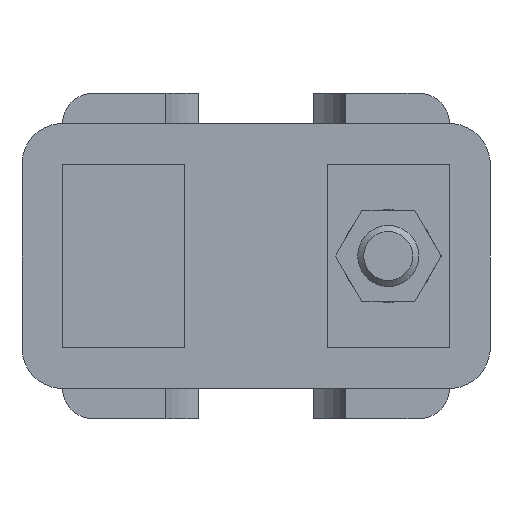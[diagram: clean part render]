
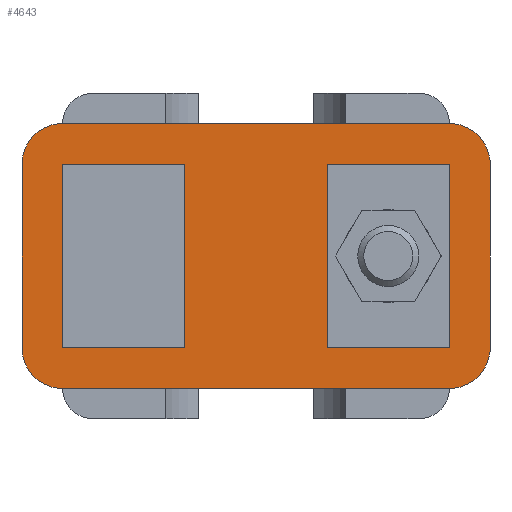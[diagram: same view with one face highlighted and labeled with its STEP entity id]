
A CAD part, front view. The second image highlights one B-rep face of the part: STEP entity #4643.
In plain terms, the highlighted planar face has unit normal (0, -1, 0).
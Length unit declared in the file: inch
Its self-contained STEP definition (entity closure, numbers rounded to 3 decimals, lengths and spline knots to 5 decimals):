
#151=CIRCLE('',#4956,0.25);
#152=CIRCLE('',#4957,0.25);
#153=CIRCLE('',#4958,0.25);
#154=CIRCLE('',#4959,0.25);
#326=ORIENTED_EDGE('',*,*,#1726,.F.);
#327=ORIENTED_EDGE('',*,*,#1727,.T.);
#328=ORIENTED_EDGE('',*,*,#1728,.F.);
#329=ORIENTED_EDGE('',*,*,#1729,.F.);
#330=ORIENTED_EDGE('',*,*,#1730,.F.);
#331=ORIENTED_EDGE('',*,*,#1731,.T.);
#332=ORIENTED_EDGE('',*,*,#1732,.F.);
#333=ORIENTED_EDGE('',*,*,#1733,.F.);
#334=ORIENTED_EDGE('',*,*,#1734,.T.);
#335=ORIENTED_EDGE('',*,*,#1735,.T.);
#336=ORIENTED_EDGE('',*,*,#1736,.F.);
#337=ORIENTED_EDGE('',*,*,#1737,.T.);
#338=ORIENTED_EDGE('',*,*,#1738,.F.);
#339=ORIENTED_EDGE('',*,*,#1739,.T.);
#340=ORIENTED_EDGE('',*,*,#1740,.T.);
#341=ORIENTED_EDGE('',*,*,#1741,.T.);
#1726=EDGE_CURVE('',#2425,#2426,#2888,.T.);
#1727=EDGE_CURVE('',#2425,#2427,#2889,.T.);
#1728=EDGE_CURVE('',#2428,#2427,#2890,.T.);
#1729=EDGE_CURVE('',#2426,#2428,#2891,.T.);
#1730=EDGE_CURVE('',#2429,#2430,#2892,.T.);
#1731=EDGE_CURVE('',#2429,#2431,#2893,.T.);
#1732=EDGE_CURVE('',#2432,#2431,#2894,.T.);
#1733=EDGE_CURVE('',#2430,#2432,#2895,.T.);
#1734=EDGE_CURVE('',#2433,#2434,#2896,.T.);
#1735=EDGE_CURVE('',#2434,#2435,#151,.F.);
#1736=EDGE_CURVE('',#2436,#2435,#2897,.T.);
#1737=EDGE_CURVE('',#2436,#2437,#152,.F.);
#1738=EDGE_CURVE('',#2438,#2437,#2898,.T.);
#1739=EDGE_CURVE('',#2438,#2439,#153,.F.);
#1740=EDGE_CURVE('',#2439,#2440,#2899,.T.);
#1741=EDGE_CURVE('',#2440,#2433,#154,.F.);
#2425=VERTEX_POINT('',#6759);
#2426=VERTEX_POINT('',#6760);
#2427=VERTEX_POINT('',#6762);
#2428=VERTEX_POINT('',#6764);
#2429=VERTEX_POINT('',#6767);
#2430=VERTEX_POINT('',#6768);
#2431=VERTEX_POINT('',#6770);
#2432=VERTEX_POINT('',#6772);
#2433=VERTEX_POINT('',#6775);
#2434=VERTEX_POINT('',#6776);
#2435=VERTEX_POINT('',#6778);
#2436=VERTEX_POINT('',#6780);
#2437=VERTEX_POINT('',#6782);
#2438=VERTEX_POINT('',#6784);
#2439=VERTEX_POINT('',#6786);
#2440=VERTEX_POINT('',#6788);
#2888=LINE('',#6758,#3403);
#2889=LINE('',#6761,#3404);
#2890=LINE('',#6763,#3405);
#2891=LINE('',#6765,#3406);
#2892=LINE('',#6766,#3407);
#2893=LINE('',#6769,#3408);
#2894=LINE('',#6771,#3409);
#2895=LINE('',#6773,#3410);
#2896=LINE('',#6774,#3411);
#2897=LINE('',#6779,#3412);
#2898=LINE('',#6783,#3413);
#2899=LINE('',#6787,#3414);
#3403=VECTOR('',#5403,39.37008);
#3404=VECTOR('',#5404,39.37008);
#3405=VECTOR('',#5405,39.37008);
#3406=VECTOR('',#5406,39.37008);
#3407=VECTOR('',#5407,39.37008);
#3408=VECTOR('',#5408,39.37008);
#3409=VECTOR('',#5409,39.37008);
#3410=VECTOR('',#5410,39.37008);
#3411=VECTOR('',#5411,39.37008);
#3412=VECTOR('',#5414,39.37008);
#3413=VECTOR('',#5417,39.37008);
#3414=VECTOR('',#5420,39.37008);
#3910=EDGE_LOOP('',(#326,#327,#328,#329));
#3911=EDGE_LOOP('',(#330,#331,#332,#333));
#3912=EDGE_LOOP('',(#334,#335,#336,#337,#338,#339,#340,#341));
#4187=FACE_BOUND('',#3910,.T.);
#4188=FACE_BOUND('',#3911,.T.);
#4189=FACE_BOUND('',#3912,.T.);
#4464=PLANE('',#4955);
#4643=ADVANCED_FACE('',(#4187,#4188,#4189),#4464,.F.);
#4955=AXIS2_PLACEMENT_3D('',#6757,#5401,#5402);
#4956=AXIS2_PLACEMENT_3D('',#6777,#5412,#5413);
#4957=AXIS2_PLACEMENT_3D('',#6781,#5415,#5416);
#4958=AXIS2_PLACEMENT_3D('',#6785,#5418,#5419);
#4959=AXIS2_PLACEMENT_3D('',#6789,#5421,#5422);
#5401=DIRECTION('',(0.,1.,0.));
#5402=DIRECTION('',(0.,0.,1.));
#5403=DIRECTION('',(0.,0.,-1.));
#5404=DIRECTION('',(1.,0.,0.));
#5405=DIRECTION('',(0.,0.,1.));
#5406=DIRECTION('',(1.,0.,0.));
#5407=DIRECTION('',(0.,0.,-1.));
#5408=DIRECTION('',(1.,0.,0.));
#5409=DIRECTION('',(0.,0.,1.));
#5410=DIRECTION('',(1.,0.,0.));
#5411=DIRECTION('',(0.,0.,-1.));
#5412=DIRECTION('',(0.,1.,0.));
#5413=DIRECTION('',(0.,0.,1.));
#5414=DIRECTION('',(-1.,0.,0.));
#5415=DIRECTION('',(0.,1.,0.));
#5416=DIRECTION('',(0.,0.,1.));
#5417=DIRECTION('',(0.,0.,-1.));
#5418=DIRECTION('',(0.,1.,0.));
#5419=DIRECTION('',(0.,0.,1.));
#5420=DIRECTION('',(-1.,0.,0.));
#5421=DIRECTION('',(0.,1.,0.));
#5422=DIRECTION('',(0.,0.,1.));
#6757=CARTESIAN_POINT('',(2.875,0.,0.8125));
#6758=CARTESIAN_POINT('',(0.25,0.,0.8125));
#6759=CARTESIAN_POINT('',(0.25,0.,0.5635));
#6760=CARTESIAN_POINT('',(0.25,0.,-0.5635));
#6761=CARTESIAN_POINT('',(2.875,0.,0.5635));
#6762=CARTESIAN_POINT('',(1.,0.,0.5635));
#6763=CARTESIAN_POINT('',(1.,0.,0.8125));
#6764=CARTESIAN_POINT('',(1.,0.,-0.5635));
#6765=CARTESIAN_POINT('',(2.875,0.,-0.5635));
#6766=CARTESIAN_POINT('',(1.875,0.,0.8125));
#6767=CARTESIAN_POINT('',(1.875,0.,0.5625));
#6768=CARTESIAN_POINT('',(1.875,0.,-0.5625));
#6769=CARTESIAN_POINT('',(2.875,0.,0.5625));
#6770=CARTESIAN_POINT('',(2.625,0.,0.5625));
#6771=CARTESIAN_POINT('',(2.625,0.,0.8125));
#6772=CARTESIAN_POINT('',(2.625,0.,-0.5625));
#6773=CARTESIAN_POINT('',(2.875,0.,-0.5625));
#6774=CARTESIAN_POINT('',(0.,0.,0.8125));
#6775=CARTESIAN_POINT('',(0.,0.,0.58584));
#6776=CARTESIAN_POINT('',(0.,0.,-0.58584));
#6777=CARTESIAN_POINT('',(0.249,0.,-0.5635));
#6778=CARTESIAN_POINT('',(0.22666,0.,-0.8125));
#6779=CARTESIAN_POINT('',(2.875,0.,-0.8125));
#6780=CARTESIAN_POINT('',(2.64834,0.,-0.8125));
#6781=CARTESIAN_POINT('',(2.626,0.,-0.5635));
#6782=CARTESIAN_POINT('',(2.875,0.,-0.58584));
#6783=CARTESIAN_POINT('',(2.875,0.,0.8125));
#6784=CARTESIAN_POINT('',(2.875,0.,0.58584));
#6785=CARTESIAN_POINT('',(2.626,0.,0.5635));
#6786=CARTESIAN_POINT('',(2.64834,0.,0.8125));
#6787=CARTESIAN_POINT('',(2.875,0.,0.8125));
#6788=CARTESIAN_POINT('',(0.22666,0.,0.8125));
#6789=CARTESIAN_POINT('',(0.249,0.,0.5635));
